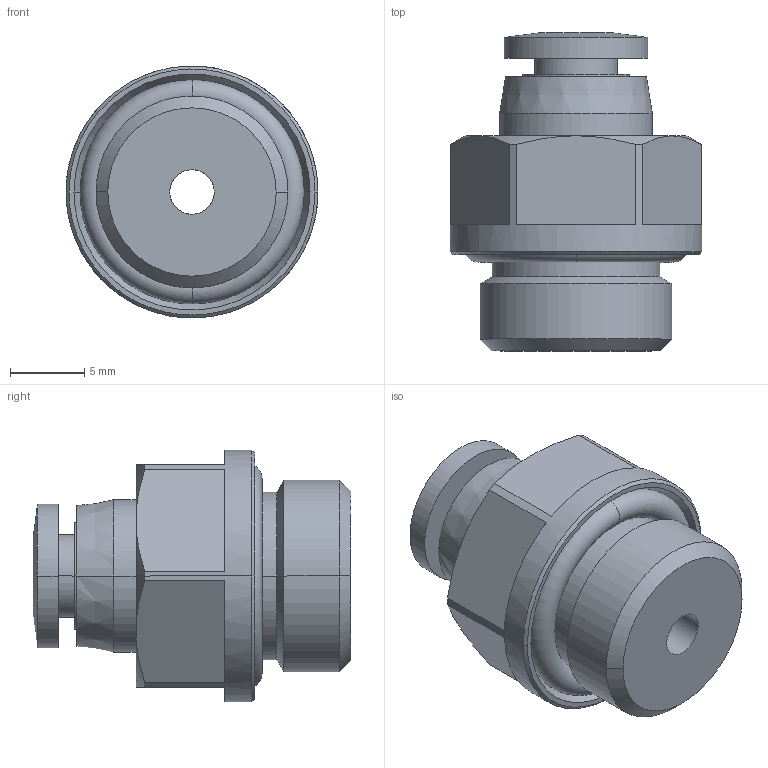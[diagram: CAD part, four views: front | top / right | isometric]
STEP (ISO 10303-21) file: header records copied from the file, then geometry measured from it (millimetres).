
FILE_DESCRIPTION (( 'STEP AP203' ), '1' );
FILE_NAME ('FH04-02.STEP', '2020-05-06T14:33:54', ( '' ), ( '' ), 'SwSTEP 2.0', 'SolidWorks 2019', '' );
FILE_SCHEMA (( 'CONFIG_CONTROL_DESIGN' ));
Length unit declared in the file: millimetre
Products named in the file (1): FH04-02
Bounding box: 17 x 21.45 x 17 mm (x, y, z)
Surface area: 2001.1 mm2 (no closed solid volume)
Topology: 0 solids, 4 shells, 67 faces, 156 edges, 99 vertices
Faces by surface type: plane 22, cylinder 20, cone 19, torus 6
Entity records: 3197 total; most frequent: CARTESIAN_POINT 1830, ORIENTED_EDGE 296, DIRECTION 181, EDGE_CURVE 156, B_SPLINE_CURVE_WITH_KNOTS 117, VERTEX_POINT 99, EDGE_LOOP 77, AXIS2_PLACEMENT_3D 74
